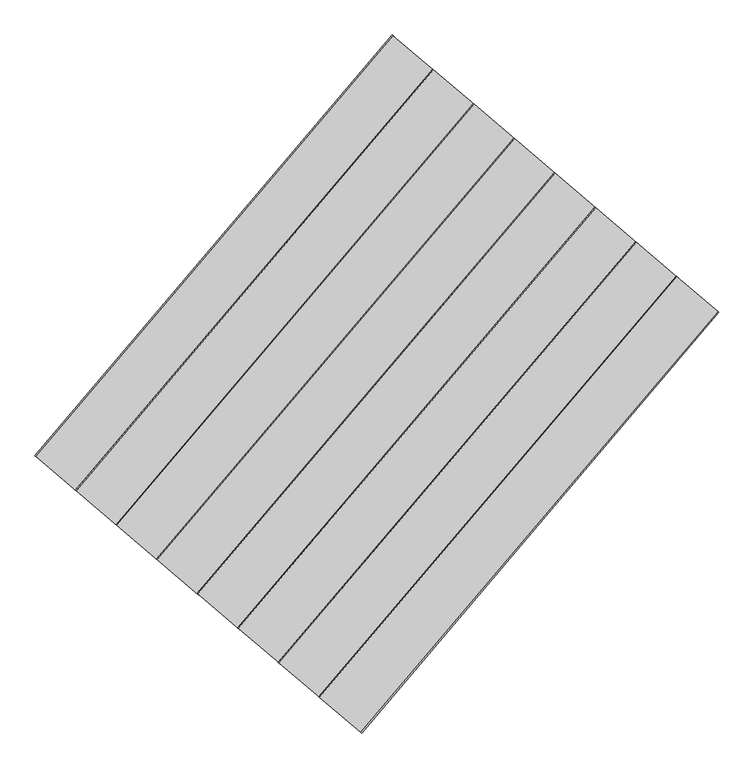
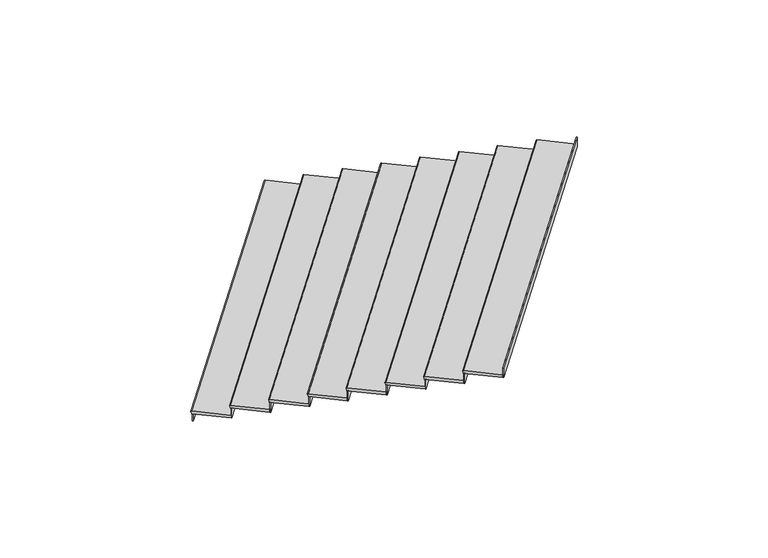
"""IFC4 building model written with IfcOpenShell, lengths in millimetres: stair flight geometry, Wood Steps with 50 mm Tread 20 mm Nosing 13 mm Riser."""

from ifc_helpers import new_model, si_unit, frame, origin, place, context, project, spatial, circle_curve, ellipse_curve, faceted_brep, source, transform, mapped, element, save
from ifc_brep_helpers import plane_surface, cylinder_surface, advanced_brep


def stair_flight_fda92ce0(model_context):
    return source(origin(), model_context, "Body", "SolidModel", [
        advanced_brep(
        [(826878.4850545, 45310.0006111, 1859.2941176), (826878.4850545, 45310.0006111, 1879.2941176), (830830.3286787, 49962.8449128, 1879.2941176), (830830.3286787, 49962.8449128, 1859.2941176), (831286.4300405, 49575.4600914, 1879.2941176), (827334.5821112, 44922.610721, 1879.2941176), (830830.3286787, 49962.8449128, 1829.2941176), (831286.4300405, 49575.4600914, 1829.2941176), (827334.5821112, 44922.610721, 1829.2941176), (826878.4850545, 45310.0006111, 1829.2941176)],
        [
            (0, 1, ellipse_curve(frame((826878.4850545, 45310.0006111, 1869.2941176), z_axis=(0.6473644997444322, 0.7621805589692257, 0.0), x_axis=(0.7621805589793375, -0.6473644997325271, 0.0)), 10.0, 10.0)),
            (1, 2),
            (2, 3, circle_curve(frame((830830.3286787, 49962.8449128, 1869.2941176), z_axis=(-0.6473560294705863, -0.7621877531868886, 0.0), x_axis=(0.7621877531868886, -0.6473560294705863, 0.0)), 10.0)),
            (3, 0),
            (4, 2),
            (1, 5),
            (5, 4),
            (6, 7),
            (7, 8),
            (8, 9),
            (9, 6),
            (4, 7),
            (6, 3),
            (9, 0),
            (8, 5),
        ],
        [
            cylinder_surface(frame((826878.4850545, 45310.0006111, 1869.2941176), z_axis=(-0.6473560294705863, -0.7621877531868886, 0.0), x_axis=(0.7621877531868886, -0.6473560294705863, 0.0)), 10.0),
            plane_surface(frame((823943.4461215, 55812.1450741, 1879.2941176), z_axis=(0.0, 0.0, 1.0000000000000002), x_axis=(-0.7621877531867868, 0.6473560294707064, 0.0))),
            plane_surface(frame((823943.4461215, 55812.1450741, 1829.2941176), z_axis=(0.0, 0.0, -1.0000000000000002), x_axis=(0.7621877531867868, -0.6473560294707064, 0.0))),
            plane_surface(frame((831286.4300405, 49575.4600914, 1879.2941176), z_axis=(0.6473560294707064, 0.7621877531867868, 0.0), x_axis=(0.0, 0.0, -1.0))),
            plane_surface(frame((830830.3286787, 49962.8449128, 1879.2941176), z_axis=(-0.7621877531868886, 0.6473560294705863, 0.0), x_axis=(0.0, 0.0, -1.0))),
            plane_surface(frame((826878.4850545, 45310.0006111, 1879.2941176), z_axis=(-0.6473644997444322, -0.7621805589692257, 0.0), x_axis=(0.0, 0.0, -1.0))),
            plane_surface(frame((827334.5821112, 44922.610721, 1879.2941176), z_axis=(0.7621877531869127, -0.647356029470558, 0.0), x_axis=(0.0, 0.0, -1.0))),
        ],
        [
            (0, [[1, 2, 3, 4]]),
            (1, [[5, -2, 6, 7]]),
            (2, [[8, 9, 10, 11]]),
            (3, [[-5, 12, -8, 13, -3]]),
            (4, [[-11, 14, -4, -13]]),
            (5, [[-6, -1, -14, -10, 15]]),
            (6, [[-7, -15, -9, -12]]),
        ],
    ),
        faceted_brep([(826886.1068601, 45303.5269661, 1829.2941176), (826886.1068601, 45303.5269661, 1700.0), (826895.6341171, 45295.4349098, 1700.0), (826895.6341171, 45295.4349098, 1829.2941176), (830837.9505562, 49956.3713525, 1829.2941176), (830847.4779031, 49948.2794021, 1829.2941176), (830847.4779031, 49948.2794021, 1700.0), (830837.9505562, 49956.3713525, 1700.0)], [[[0, 1, 2, 3]], [[4, 5, 6, 7]], [[1, 0, 4, 7]], [[2, 1, 7, 6]], [[3, 2, 6, 5]], [[0, 3, 5, 4]]]),
        faceted_brep([(827334.5821112, 44922.610721, 2008.5882353), (827334.5821112, 44922.610721, 1829.2941176), (827344.1093682, 44914.5186648, 1829.2941176), (827344.1093682, 44914.5186648, 2008.5882353), (831286.4300405, 49575.4600914, 2008.5882353), (831295.9573874, 49567.3681411, 2008.5882353), (831295.9573874, 49567.3681411, 1829.2941176), (831286.4300405, 49575.4600914, 1829.2941176)], [[[0, 1, 2, 3]], [[4, 5, 6, 7]], [[1, 0, 4, 7]], [[2, 1, 7, 6]], [[3, 2, 6, 5]], [[0, 3, 5, 4]]]),
        advanced_brep(
        [(831734.9095247, 49194.5488304, 2058.5882353), (831278.8081629, 49581.9336517, 2058.5882353), (827326.9603056, 44929.084366, 2058.5882353), (827783.0573623, 44541.6944759, 2058.5882353), (831278.8081629, 49581.9336517, 2008.5882353), (831734.9095247, 49194.5488304, 2008.5882353), (827783.0573623, 44541.6944759, 2008.5882353), (827326.9603056, 44929.084366, 2008.5882353), (831278.8081629, 49581.9336517, 2038.5882353), (827326.9603056, 44929.084366, 2038.5882353)],
        [
            (0, 1),
            (1, 2),
            (2, 3),
            (3, 0),
            (4, 5),
            (5, 6),
            (6, 7),
            (7, 4),
            (0, 5),
            (4, 8),
            (8, 1, circle_curve(frame((831278.8081629, 49581.9336517, 2048.5882353), z_axis=(0.647356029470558, 0.7621877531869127, 0.0), x_axis=(0.7621877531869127, -0.647356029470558, 0.0)), 10.0)),
            (7, 9),
            (9, 8),
            (2, 9, ellipse_curve(frame((827326.9603056, 44929.084366, 2048.5882353), z_axis=(-0.6473644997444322, -0.7621805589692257, 0.0), x_axis=(0.7621805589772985, -0.6473644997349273, 0.0)), 10.0, 10.0)),
            (6, 3),
        ],
        [
            plane_surface(frame((823943.4461215, 55812.1450741, 2058.5882353), z_axis=(0.0, 0.0, 1.0000000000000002), x_axis=(-0.7621877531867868, 0.6473560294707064, 0.0))),
            plane_surface(frame((823943.4461215, 55812.1450741, 2008.5882353), z_axis=(0.0, 0.0, -1.0000000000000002), x_axis=(0.7621877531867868, -0.6473560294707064, 0.0))),
            plane_surface(frame((831734.9095247, 49194.5488304, 2058.5882353), z_axis=(0.6473560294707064, 0.7621877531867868, 0.0), x_axis=(0.0, 0.0, -1.0))),
            plane_surface(frame((831278.8081629, 49581.9336517, 2058.5882353), z_axis=(-0.7621877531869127, 0.647356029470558, 0.0), x_axis=(0.0, 0.0, -1.0))),
            plane_surface(frame((827326.9603056, 44929.084366, 2058.5882353), z_axis=(-0.6473644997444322, -0.7621805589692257, 0.0), x_axis=(0.0, 0.0, -1.0))),
            plane_surface(frame((827783.0573623, 44541.6944759, 2058.5882353), z_axis=(0.7621877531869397, -0.6473560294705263, 0.0), x_axis=(0.0, 0.0, -1.0))),
            cylinder_surface(frame((827326.9603056, 44929.084366, 2048.5882353), z_axis=(-0.647356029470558, -0.7621877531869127, 0.0), x_axis=(0.7621877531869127, -0.647356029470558, 0.0)), 10.0),
        ],
        [
            (0, [[1, 2, 3, 4]]),
            (1, [[5, 6, 7, 8]]),
            (2, [[-1, 9, -5, 10, 11]]),
            (3, [[-8, 12, 13, -10]]),
            (4, [[-3, 14, -12, -7, 15]]),
            (5, [[-4, -15, -6, -9]]),
            (6, [[-14, -2, -11, -13]]),
        ],
    ),
        faceted_brep([(827783.0573623, 44541.6944759, 2187.8823529), (827783.0573623, 44541.6944759, 2008.5882353), (827792.5846193, 44533.6024197, 2008.5882353), (827792.5846193, 44533.6024197, 2187.8823529), (831734.9095247, 49194.5488304, 2187.8823529), (831744.4368716, 49186.45688, 2187.8823529), (831744.4368716, 49186.45688, 2008.5882353), (831734.9095247, 49194.5488304, 2008.5882353)], [[[0, 1, 2, 3]], [[4, 5, 6, 7]], [[1, 0, 4, 7]], [[2, 1, 7, 6]], [[3, 2, 6, 5]], [[0, 3, 5, 4]]]),
        advanced_brep(
        [(832183.389009, 48813.6375693, 2237.8823529), (831727.2876472, 49201.0223907, 2237.8823529), (827775.4355567, 44548.1681209, 2237.8823529), (828231.5326134, 44160.7782309, 2237.8823529), (831727.2876472, 49201.0223907, 2187.8823529), (832183.389009, 48813.6375693, 2187.8823529), (828231.5326134, 44160.7782309, 2187.8823529), (827775.4355567, 44548.1681209, 2187.8823529), (831727.2876472, 49201.0223907, 2217.8823529), (827775.4355567, 44548.1681209, 2217.8823529)],
        [
            (0, 1),
            (1, 2),
            (2, 3),
            (3, 0),
            (4, 5),
            (5, 6),
            (6, 7),
            (7, 4),
            (0, 5),
            (4, 8),
            (8, 1, circle_curve(frame((831727.2876472, 49201.0223907, 2227.8823529), z_axis=(0.6473560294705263, 0.7621877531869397, 0.0), x_axis=(0.7621877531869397, -0.6473560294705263, 0.0)), 10.0)),
            (7, 9),
            (9, 8),
            (2, 9, ellipse_curve(frame((827775.4355567, 44548.1681209, 2227.8823529), z_axis=(-0.6473644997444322, -0.7621805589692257, 0.0), x_axis=(0.762180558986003, -0.647364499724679, 0.0)), 10.0, 10.0)),
            (6, 3),
        ],
        [
            plane_surface(frame((823943.4461215, 55812.1450741, 2237.8823529), z_axis=(0.0, 0.0, 1.0000000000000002), x_axis=(-0.7621877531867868, 0.6473560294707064, 0.0))),
            plane_surface(frame((823943.4461215, 55812.1450741, 2187.8823529), z_axis=(0.0, 0.0, -1.0000000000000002), x_axis=(0.7621877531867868, -0.6473560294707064, 0.0))),
            plane_surface(frame((832183.389009, 48813.6375693, 2237.8823529), z_axis=(0.6473560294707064, 0.7621877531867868, 0.0), x_axis=(0.0, 0.0, -1.0))),
            plane_surface(frame((831727.2876472, 49201.0223907, 2237.8823529), z_axis=(-0.7621877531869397, 0.6473560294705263, 0.0), x_axis=(0.0, 0.0, -1.0))),
            plane_surface(frame((827775.4355567, 44548.1681209, 2237.8823529), z_axis=(-0.6473644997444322, -0.7621805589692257, 0.0), x_axis=(0.0, 0.0, -1.0))),
            plane_surface(frame((828231.5326134, 44160.7782309, 2237.8823529), z_axis=(0.7621877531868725, -0.6473560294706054, 0.0), x_axis=(0.0, 0.0, -1.0))),
            cylinder_surface(frame((827775.4355567, 44548.1681209, 2227.8823529), z_axis=(-0.6473560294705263, -0.7621877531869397, 0.0), x_axis=(0.7621877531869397, -0.6473560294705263, 0.0)), 10.0),
        ],
        [
            (0, [[1, 2, 3, 4]]),
            (1, [[5, 6, 7, 8]]),
            (2, [[-1, 9, -5, 10, 11]]),
            (3, [[-8, 12, 13, -10]]),
            (4, [[-3, 14, -12, -7, 15]]),
            (5, [[-4, -15, -6, -9]]),
            (6, [[-14, -2, -11, -13]]),
        ],
    ),
        faceted_brep([(828231.5326134, 44160.7782309, 2367.1764706), (828231.5326134, 44160.7782309, 2187.8823529), (828241.0598704, 44152.6861746, 2187.8823529), (828241.0598704, 44152.6861746, 2367.1764706), (832183.389009, 48813.6375693, 2367.1764706), (832192.9163559, 48805.545619, 2367.1764706), (832192.9163559, 48805.545619, 2187.8823529), (832183.389009, 48813.6375693, 2187.8823529)], [[[0, 1, 2, 3]], [[4, 5, 6, 7]], [[1, 0, 4, 7]], [[2, 1, 7, 6]], [[3, 2, 6, 5]], [[0, 3, 5, 4]]]),
        advanced_brep(
        [(832631.8684932, 48432.7263083, 2417.1764706), (832175.7671315, 48820.1111296, 2417.1764706), (828223.9108079, 44167.2518759, 2417.1764706), (828680.0078646, 43779.8619858, 2417.1764706), (832175.7671315, 48820.1111296, 2367.1764706), (832631.8684932, 48432.7263083, 2367.1764706), (828680.0078646, 43779.8619858, 2367.1764706), (828223.9108079, 44167.2518759, 2367.1764706), (832175.7671315, 48820.1111296, 2397.1764706), (828223.9108079, 44167.2518759, 2397.1764706)],
        [
            (0, 1),
            (1, 2),
            (2, 3),
            (3, 0),
            (4, 5),
            (5, 6),
            (6, 7),
            (7, 4),
            (0, 5),
            (4, 8),
            (8, 1, circle_curve(frame((832175.7671315, 48820.1111296, 2407.1764706), z_axis=(0.6473560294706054, 0.7621877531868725, 0.0), x_axis=(0.7621877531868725, -0.6473560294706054, 0.0)), 10.0)),
            (7, 9),
            (9, 8),
            (2, 9, ellipse_curve(frame((828223.9108079, 44167.2518759, 2407.1764706), z_axis=(-0.6473644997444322, -0.7621805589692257, 0.0), x_axis=(0.7621805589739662, -0.6473644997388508, 0.0)), 10.0, 10.0)),
            (6, 3),
        ],
        [
            plane_surface(frame((823943.4461215, 55812.1450741, 2417.1764706), z_axis=(0.0, 0.0, 1.0000000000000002), x_axis=(-0.7621877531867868, 0.6473560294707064, 0.0))),
            plane_surface(frame((823943.4461215, 55812.1450741, 2367.1764706), z_axis=(0.0, 0.0, -1.0000000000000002), x_axis=(0.7621877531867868, -0.6473560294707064, 0.0))),
            plane_surface(frame((832631.8684932, 48432.7263083, 2417.1764706), z_axis=(0.6473560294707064, 0.7621877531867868, 0.0), x_axis=(0.0, 0.0, -1.0))),
            plane_surface(frame((832175.7671315, 48820.1111296, 2417.1764706), z_axis=(-0.7621877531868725, 0.6473560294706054, 0.0), x_axis=(0.0, 0.0, -1.0))),
            plane_surface(frame((828223.9108079, 44167.2518759, 2417.1764706), z_axis=(-0.6473644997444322, -0.7621805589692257, 0.0), x_axis=(0.0, 0.0, -1.0))),
            plane_surface(frame((828680.0078646, 43779.8619858, 2417.1764706), z_axis=(0.762187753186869, -0.6473560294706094, 0.0), x_axis=(0.0, 0.0, -1.0))),
            cylinder_surface(frame((828223.9108079, 44167.2518759, 2407.1764706), z_axis=(-0.6473560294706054, -0.7621877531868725, 0.0), x_axis=(0.7621877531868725, -0.6473560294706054, 0.0)), 10.0),
        ],
        [
            (0, [[1, 2, 3, 4]]),
            (1, [[5, 6, 7, 8]]),
            (2, [[-1, 9, -5, 10, 11]]),
            (3, [[-8, 12, 13, -10]]),
            (4, [[-3, 14, -12, -7, 15]]),
            (5, [[-4, -15, -6, -9]]),
            (6, [[-14, -2, -11, -13]]),
        ],
    ),
        faceted_brep([(828680.0078646, 43779.8619858, 2546.4705882), (828680.0078646, 43779.8619858, 2367.1764706), (828689.5351216, 43771.7699295, 2367.1764706), (828689.5351216, 43771.7699295, 2546.4705882), (832631.8684932, 48432.7263083, 2546.4705882), (832641.3958402, 48424.6343579, 2546.4705882), (832641.3958402, 48424.6343579, 2367.1764706), (832631.8684932, 48432.7263083, 2367.1764706)], [[[0, 1, 2, 3]], [[4, 5, 6, 7]], [[1, 0, 4, 7]], [[2, 1, 7, 6]], [[3, 2, 6, 5]], [[0, 3, 5, 4]]]),
        advanced_brep(
        [(833080.3479775, 48051.8150472, 2596.4705882), (832624.2466157, 48439.1998686, 2596.4705882), (828672.386059, 43786.3356308, 2596.4705882), (829128.4831157, 43398.9457407, 2596.4705882), (832624.2466157, 48439.1998686, 2546.4705882), (833080.3479775, 48051.8150472, 2546.4705882), (829128.4831157, 43398.9457407, 2546.4705882), (828672.386059, 43786.3356308, 2546.4705882), (832624.2466157, 48439.1998686, 2576.4705882), (828672.386059, 43786.3356308, 2576.4705882)],
        [
            (0, 1),
            (1, 2),
            (2, 3),
            (3, 0),
            (4, 5),
            (5, 6),
            (6, 7),
            (7, 4),
            (0, 5),
            (4, 8),
            (8, 1, circle_curve(frame((832624.2466157, 48439.1998686, 2586.4705882), z_axis=(0.6473560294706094, 0.762187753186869, 0.0), x_axis=(0.762187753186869, -0.6473560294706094, 0.0)), 10.0)),
            (7, 9),
            (9, 8),
            (2, 9, ellipse_curve(frame((828672.386059, 43786.3356308, 2586.4705882), z_axis=(-0.6473644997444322, -0.7621805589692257, 0.0), x_axis=(0.7621805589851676, -0.6473644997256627, 0.0)), 10.0, 10.0)),
            (6, 3),
        ],
        [
            plane_surface(frame((823943.4461215, 55812.1450741, 2596.4705882), z_axis=(0.0, 0.0, 1.0000000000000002), x_axis=(-0.7621877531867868, 0.6473560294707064, 0.0))),
            plane_surface(frame((823943.4461215, 55812.1450741, 2546.4705882), z_axis=(0.0, 0.0, -1.0000000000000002), x_axis=(0.7621877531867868, -0.6473560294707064, 0.0))),
            plane_surface(frame((833080.3479775, 48051.8150472, 2596.4705882), z_axis=(0.6473560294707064, 0.7621877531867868, 0.0), x_axis=(0.0, 0.0, -1.0))),
            plane_surface(frame((832624.2466157, 48439.1998686, 2596.4705882), z_axis=(-0.762187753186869, 0.6473560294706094, 0.0), x_axis=(0.0, 0.0, -1.0))),
            plane_surface(frame((828672.386059, 43786.3356308, 2596.4705882), z_axis=(-0.6473644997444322, -0.7621805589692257, 0.0), x_axis=(0.0, 0.0, -1.0))),
            plane_surface(frame((829128.4831157, 43398.9457407, 2596.4705882), z_axis=(0.7621877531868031, -0.6473560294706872, 0.0), x_axis=(0.0, 0.0, -1.0))),
            cylinder_surface(frame((828672.386059, 43786.3356308, 2586.4705882), z_axis=(-0.6473560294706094, -0.762187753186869, 0.0), x_axis=(0.762187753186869, -0.6473560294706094, 0.0)), 10.0),
        ],
        [
            (0, [[1, 2, 3, 4]]),
            (1, [[5, 6, 7, 8]]),
            (2, [[-1, 9, -5, 10, 11]]),
            (3, [[-8, 12, 13, -10]]),
            (4, [[-3, 14, -12, -7, 15]]),
            (5, [[-4, -15, -6, -9]]),
            (6, [[-14, -2, -11, -13]]),
        ],
    ),
        faceted_brep([(829128.4831157, 43398.9457407, 2725.7647059), (829128.4831157, 43398.9457407, 2546.4705882), (829138.0103727, 43390.8536845, 2546.4705882), (829138.0103727, 43390.8536845, 2725.7647059), (833080.3479775, 48051.8150472, 2725.7647059), (833089.8753244, 48043.7230969, 2725.7647059), (833089.8753244, 48043.7230969, 2546.4705882), (833080.3479775, 48051.8150472, 2546.4705882)], [[[0, 1, 2, 3]], [[4, 5, 6, 7]], [[1, 0, 4, 7]], [[2, 1, 7, 6]], [[3, 2, 6, 5]], [[0, 3, 5, 4]]]),
        advanced_brep(
        [(833528.8274617, 47670.9037862, 2775.7647059), (833072.7261, 48058.2886075, 2775.7647059), (829120.8613101, 43405.4193857, 2775.7647059), (829576.9583668, 43018.0294956, 2775.7647059), (833072.7261, 48058.2886075, 2725.7647059), (833528.8274617, 47670.9037862, 2725.7647059), (829576.9583668, 43018.0294956, 2725.7647059), (829120.8613101, 43405.4193857, 2725.7647059), (833072.7261, 48058.2886075, 2755.7647059), (829120.8613101, 43405.4193857, 2755.7647059)],
        [
            (0, 1),
            (1, 2),
            (2, 3),
            (3, 0),
            (4, 5),
            (5, 6),
            (6, 7),
            (7, 4),
            (0, 5),
            (4, 8),
            (8, 1, circle_curve(frame((833072.7261, 48058.2886075, 2765.7647059), z_axis=(0.6473560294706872, 0.7621877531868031, 0.0), x_axis=(0.7621877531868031, -0.6473560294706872, 0.0)), 10.0)),
            (7, 9),
            (9, 8),
            (2, 9, ellipse_curve(frame((829120.8613101, 43405.4193857, 2765.7647059), z_axis=(-0.6473644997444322, -0.7621805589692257, 0.0), x_axis=(0.7621805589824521, -0.6473644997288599, 0.0)), 10.0, 10.0)),
            (6, 3),
        ],
        [
            plane_surface(frame((823943.4461215, 55812.1450741, 2775.7647059), z_axis=(0.0, 0.0, 1.0000000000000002), x_axis=(-0.7621877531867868, 0.6473560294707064, 0.0))),
            plane_surface(frame((823943.4461215, 55812.1450741, 2725.7647059), z_axis=(0.0, 0.0, -1.0000000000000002), x_axis=(0.7621877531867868, -0.6473560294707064, 0.0))),
            plane_surface(frame((833528.8274617, 47670.9037862, 2775.7647059), z_axis=(0.6473560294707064, 0.7621877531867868, 0.0), x_axis=(0.0, 0.0, -1.0))),
            plane_surface(frame((833072.7261, 48058.2886075, 2775.7647059), z_axis=(-0.7621877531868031, 0.6473560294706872, 0.0), x_axis=(0.0, 0.0, -1.0))),
            plane_surface(frame((829120.8613101, 43405.4193857, 2775.7647059), z_axis=(-0.6473644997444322, -0.7621805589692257, 0.0), x_axis=(0.0, 0.0, -1.0))),
            plane_surface(frame((829576.9583668, 43018.0294956, 2775.7647059), z_axis=(0.7621877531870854, -0.6473560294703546, 0.0), x_axis=(0.0, 0.0, -1.0))),
            cylinder_surface(frame((829120.8613101, 43405.4193857, 2765.7647059), z_axis=(-0.6473560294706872, -0.7621877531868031, 0.0), x_axis=(0.7621877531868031, -0.6473560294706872, 0.0)), 10.0),
        ],
        [
            (0, [[1, 2, 3, 4]]),
            (1, [[5, 6, 7, 8]]),
            (2, [[-1, 9, -5, 10, 11]]),
            (3, [[-8, 12, 13, -10]]),
            (4, [[-3, 14, -12, -7, 15]]),
            (5, [[-4, -15, -6, -9]]),
            (6, [[-14, -2, -11, -13]]),
        ],
    ),
        faceted_brep([(829576.9583668, 43018.0294956, 2905.0588235), (829576.9583668, 43018.0294956, 2725.7647059), (829586.4856238, 43009.9374394, 2725.7647059), (829586.4856238, 43009.9374394, 2905.0588235), (833528.8274617, 47670.9037862, 2905.0588235), (833538.3548087, 47662.8118358, 2905.0588235), (833538.3548087, 47662.8118358, 2725.7647059), (833528.8274617, 47670.9037862, 2725.7647059)], [[[0, 1, 2, 3]], [[4, 5, 6, 7]], [[1, 0, 4, 7]], [[2, 1, 7, 6]], [[3, 2, 6, 5]], [[0, 3, 5, 4]]]),
        advanced_brep(
        [(833977.306946, 47289.9925251, 2955.0588235), (833521.2055842, 47677.3773465, 2955.0588235), (829569.3365612, 43024.5031406, 2955.0588235), (830025.4336179, 42637.1132506, 2955.0588235), (833521.2055842, 47677.3773465, 2905.0588235), (833977.306946, 47289.9925251, 2905.0588235), (830025.4336179, 42637.1132506, 2905.0588235), (829569.3365612, 43024.5031406, 2905.0588235), (833521.2055842, 47677.3773465, 2935.0588235), (829569.3365612, 43024.5031406, 2935.0588235)],
        [
            (0, 1),
            (1, 2),
            (2, 3),
            (3, 0),
            (4, 5),
            (5, 6),
            (6, 7),
            (7, 4),
            (0, 5),
            (4, 8),
            (8, 1, circle_curve(frame((833521.2055842, 47677.3773465, 2945.0588235), z_axis=(0.6473560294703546, 0.7621877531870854, 0.0), x_axis=(0.7621877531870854, -0.6473560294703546, 0.0)), 10.0)),
            (7, 9),
            (9, 8),
            (2, 9, ellipse_curve(frame((829569.3365612, 43024.5031406, 2945.0588235), z_axis=(-0.6473644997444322, -0.7621805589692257, 0.0), x_axis=(0.7621805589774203, -0.647364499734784, 0.0)), 10.0, 10.0)),
            (6, 3),
        ],
        [
            plane_surface(frame((823943.4461215, 55812.1450741, 2955.0588235), z_axis=(0.0, 0.0, 1.0000000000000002), x_axis=(-0.7621877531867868, 0.6473560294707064, 0.0))),
            plane_surface(frame((823943.4461215, 55812.1450741, 2905.0588235), z_axis=(0.0, 0.0, -1.0000000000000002), x_axis=(0.7621877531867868, -0.6473560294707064, 0.0))),
            plane_surface(frame((833977.306946, 47289.9925251, 2955.0588235), z_axis=(0.6473560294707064, 0.7621877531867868, 0.0), x_axis=(0.0, 0.0, -1.0))),
            plane_surface(frame((833521.2055842, 47677.3773465, 2955.0588235), z_axis=(-0.7621877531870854, 0.6473560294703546, 0.0), x_axis=(0.0, 0.0, -1.0))),
            plane_surface(frame((829569.3365612, 43024.5031406, 2955.0588235), z_axis=(-0.6473644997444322, -0.7621805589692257, 0.0), x_axis=(0.0, 0.0, -1.0))),
            plane_surface(frame((830025.4336179, 42637.1132506, 2955.0588235), z_axis=(0.7621877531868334, -0.6473560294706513, 0.0), x_axis=(0.0, 0.0, -1.0))),
            cylinder_surface(frame((829569.3365612, 43024.5031406, 2945.0588235), z_axis=(-0.6473560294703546, -0.7621877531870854, 0.0), x_axis=(0.7621877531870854, -0.6473560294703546, 0.0)), 10.0),
        ],
        [
            (0, [[1, 2, 3, 4]]),
            (1, [[5, 6, 7, 8]]),
            (2, [[-1, 9, -5, 10, 11]]),
            (3, [[-8, 12, 13, -10]]),
            (4, [[-3, 14, -12, -7, 15]]),
            (5, [[-4, -15, -6, -9]]),
            (6, [[-14, -2, -11, -13]]),
        ],
    ),
        faceted_brep([(830025.4336179, 42637.1132506, 3084.3529412), (830025.4336179, 42637.1132506, 2905.0588235), (830034.9608749, 42629.0211943, 2905.0588235), (830034.9608749, 42629.0211943, 3084.3529412), (833977.306946, 47289.9925251, 3084.3529412), (833986.8342929, 47281.9005748, 3084.3529412), (833986.8342929, 47281.9005748, 2905.0588235), (833977.306946, 47289.9925251, 2905.0588235)], [[[0, 1, 2, 3]], [[4, 5, 6, 7]], [[1, 0, 4, 7]], [[2, 1, 7, 6]], [[3, 2, 6, 5]], [[0, 3, 5, 4]]]),
        faceted_brep([(830473.9088691, 42256.1970055, 3263.6470588), (830473.9088691, 42256.1970055, 3084.3529412), (830483.4361261, 42248.1049492, 3084.3529412), (830483.4361261, 42248.1049492, 3263.6470588), (834425.7864302, 46909.0812641, 3263.6470588), (834435.3137772, 46900.9893137, 3263.6470588), (834435.3137772, 46900.9893137, 3084.3529412), (834425.7864302, 46909.0812641, 3084.3529412)], [[[0, 1, 2, 3]], [[4, 5, 6, 7]], [[1, 0, 4, 7]], [[2, 1, 7, 6]], [[3, 2, 6, 5]], [[0, 3, 5, 4]]]),
        advanced_brep(
        [(834425.7864302, 46909.0812641, 3134.3529412), (833969.6850685, 47296.4660854, 3134.3529412), (830017.8118124, 42643.5868956, 3134.3529412), (830473.9088691, 42256.1970055, 3134.3529412), (833969.6850685, 47296.4660854, 3084.3529412), (834425.7864302, 46909.0812641, 3084.3529412), (830473.9088691, 42256.1970055, 3084.3529412), (830017.8118124, 42643.5868956, 3084.3529412), (833969.6850685, 47296.4660854, 3114.3529412), (830017.8118124, 42643.5868956, 3114.3529412)],
        [
            (0, 1),
            (1, 2),
            (2, 3),
            (3, 0),
            (4, 5),
            (5, 6),
            (6, 7),
            (7, 4),
            (0, 5),
            (4, 8),
            (8, 1, circle_curve(frame((833969.6850685, 47296.4660854, 3124.3529412), z_axis=(0.6473560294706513, 0.7621877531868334, 0.0), x_axis=(0.7621877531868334, -0.6473560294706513, 0.0)), 10.0)),
            (7, 9),
            (9, 8),
            (2, 9, ellipse_curve(frame((830017.8118124, 42643.5868956, 3124.3529412), z_axis=(-0.6473644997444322, -0.7621805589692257, 0.0), x_axis=(0.7621805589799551, -0.6473644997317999, 0.0)), 10.0, 10.0)),
            (6, 3),
        ],
        [
            plane_surface(frame((823943.4461215, 55812.1450741, 3134.3529412), z_axis=(0.0, 0.0, 1.0000000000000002), x_axis=(-0.7621877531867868, 0.6473560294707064, 0.0))),
            plane_surface(frame((823943.4461215, 55812.1450741, 3084.3529412), z_axis=(0.0, 0.0, -1.0000000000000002), x_axis=(0.7621877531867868, -0.6473560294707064, 0.0))),
            plane_surface(frame((834425.7864302, 46909.0812641, 3134.3529412), z_axis=(0.6473560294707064, 0.7621877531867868, 0.0), x_axis=(0.0, 0.0, -1.0))),
            plane_surface(frame((833969.6850685, 47296.4660854, 3134.3529412), z_axis=(-0.7621877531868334, 0.6473560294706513, 0.0), x_axis=(0.0, 0.0, -1.0))),
            plane_surface(frame((830017.8118124, 42643.5868956, 3134.3529412), z_axis=(-0.6473644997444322, -0.7621805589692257, 0.0), x_axis=(0.0, 0.0, -1.0))),
            plane_surface(frame((830473.9088691, 42256.1970055, 3134.3529412), z_axis=(0.7621877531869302, -0.6473560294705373, 0.0), x_axis=(0.0, 0.0, -1.0))),
            cylinder_surface(frame((830017.8118124, 42643.5868956, 3124.3529412), z_axis=(-0.6473560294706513, -0.7621877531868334, 0.0), x_axis=(0.7621877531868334, -0.6473560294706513, 0.0)), 10.0),
        ],
        [
            (0, [[1, 2, 3, 4]]),
            (1, [[5, 6, 7, 8]]),
            (2, [[-1, 9, -5, 10, 11]]),
            (3, [[-8, 12, 13, -10]]),
            (4, [[-3, 14, -12, -7, 15]]),
            (5, [[-4, -15, -6, -9]]),
            (6, [[-14, -2, -11, -13]]),
        ],
    ),
    ])


if __name__ == "__main__":
    model = new_model("IFC4")
    model_context = context("Model", 3, world=origin())
    ifc_project = project(units=[si_unit("LENGTHUNIT", "METRE", prefix="MILLI")], contexts=[model_context])
    site = spatial("IfcSite", under=ifc_project)
    building = spatial("IfcBuilding", under=site)
    placement = place(None, origin())
    stair_flight_shape = stair_flight_fda92ce0(model_context)
    element("IfcStairFlight", 1, ObjectType="Wood Steps with 50 mm Tread 20 mm Nosing 13 mm Riser", at=placement, inside=building, context=model_context, shape_type="MappedRepresentation", body=[
        mapped(stair_flight_shape, transform((0.0, 0.0, 0.0), x_axis=(1.0, 0.0, 0.0), y_axis=(0.0, 1.0, 0.0), z_axis=(0.0, 0.0, 1.0))),
    ])
    save(model, "model.ifc")
